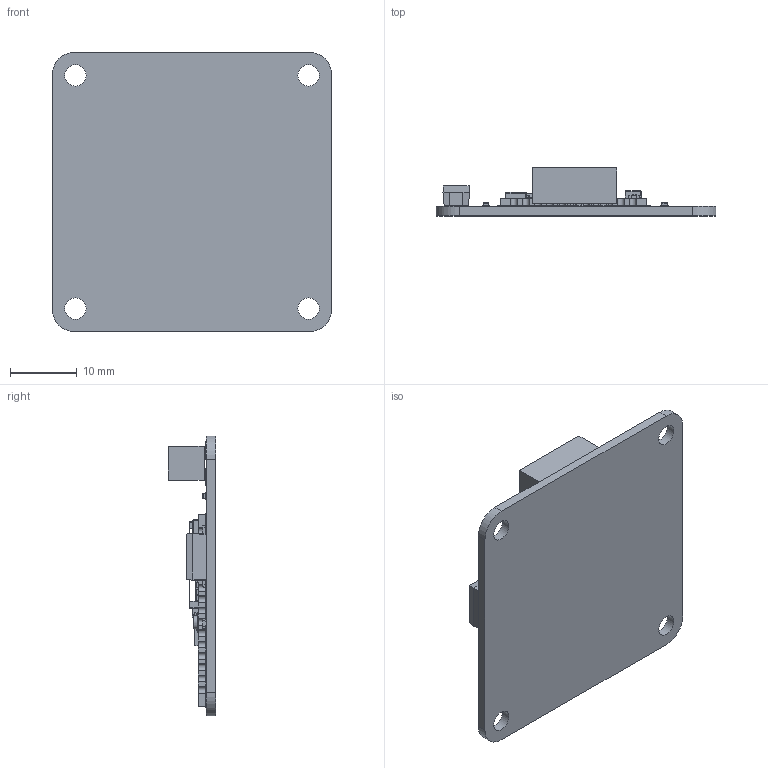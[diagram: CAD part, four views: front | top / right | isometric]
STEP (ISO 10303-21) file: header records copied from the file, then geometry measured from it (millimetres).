
FILE_DESCRIPTION (( 'STEP AP214' ), '1' );
FILE_NAME ('WiFi_RS21_With Ext_Ant_Module.STEP', '2013-04-11T16:45:40', ( '' ), ( '' ), 'SwSTEP 2.0', 'SolidWorks 2013', '' );
FILE_SCHEMA (( 'AUTOMOTIVE_DESIGN' ));
Length unit declared in the file: millimetre
Products named in the file (18): Led_0402; R0603; 7X4_Tantalum_Capacitor; 3x5_crystal; WiFiRS21_Pads; WiFi_RS21_With Ext_Ant_Module; R0402; WiFi_RS21_ANT_Chip_ASS; R0805; 5x6_chip; G_Socket; C0402; 3x5; Cover; C0603; Ant_Connect; WiFiRS21_PCB; WiFi_Chip_PCB
Assembly tree (36 placements, depth 3):
  WiFi_RS21_With Ext_Ant_Module
    WiFiRS21_PCB
    WiFiRS21_Pads
    WiFi_RS21_ANT_Chip_ASS
      WiFi_Chip_PCB
      C0603  x5
      C0402  x4
      R0402  x3
      Led_0402  x2
      3x5_crystal
      3x5
      R0805
      R0603  x4
      Cover
      5x6_chip
      Ant_Connect
    G_Socket
    7X4_Tantalum_Capacitor
    R0603  x5
    C0603
Bounding box: 42 x 7.15 x 42 mm (x, y, z)
Volume: 3441 mm3; surface area: 6592.1 mm2
Topology: 111 solids, 111 shells, 1381 faces, 3286 edges, 2132 vertices
Faces by surface type: plane 1150, cylinder 211, sphere 16, cone 4
Full cylindrical faces by diameter (mm): 0.204 x1, 1.8 x1, 2 x1, 3.2 x4
Entity records: 38976 total; most frequent: CARTESIAN_POINT 4708, DIRECTION 4519, ORIENTED_EDGE 4454, EDGE_CURVE 2227, VECTOR 1965, LINE 1965, VERTEX_POINT 1466, AXIS2_PLACEMENT_3D 1277
